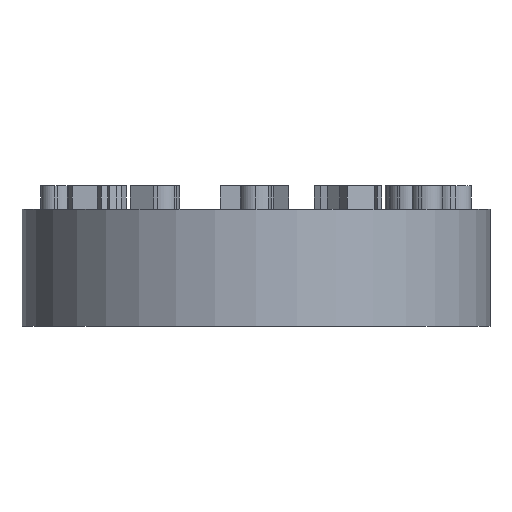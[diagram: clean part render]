
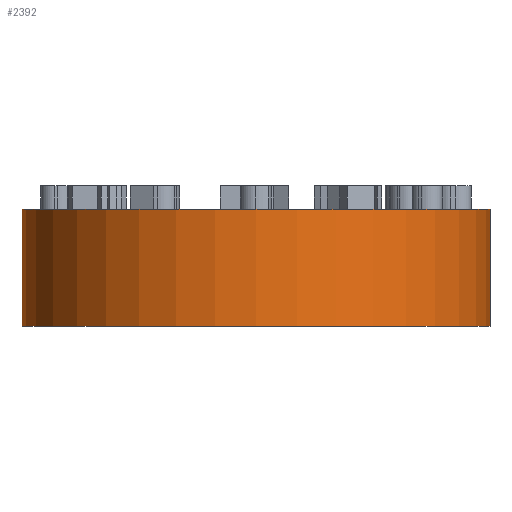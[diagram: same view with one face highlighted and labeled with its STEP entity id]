
A CAD part, front view. The second image highlights one B-rep face of the part: STEP entity #2392.
In plain terms, the highlighted cylindrical face has radius 10 mm (diameter 20 mm), a partial arc.
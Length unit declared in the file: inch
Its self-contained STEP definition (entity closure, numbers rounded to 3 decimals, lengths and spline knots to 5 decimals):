
#62 = DIRECTION ( 'NONE',  ( 0., 0., 1. ) ) ;
#99 = DIRECTION ( 'NONE',  ( 1., 0., 0. ) ) ;
#362 = DIRECTION ( 'NONE',  ( 0., 0., 1. ) ) ;
#584 = CARTESIAN_POINT ( 'NONE',  ( 0., 0., -0.19685 ) ) ;
#982 = DIRECTION ( 'NONE',  ( 1., 0., 0. ) ) ;
#1292 = CIRCLE ( 'NONE', #2174, 0.3937 ) ;
#1394 = ORIENTED_EDGE ( 'NONE', *, *, #2167, .T. ) ;
#1474 = EDGE_CURVE ( 'NONE', #3165, #2567, #4125, .T. ) ;
#1646 = CARTESIAN_POINT ( 'NONE',  ( 0., 0., 0.28386 ) ) ;
#2008 = DIRECTION ( 'NONE',  ( 0., 0., 1. ) ) ;
#2164 = CARTESIAN_POINT ( 'NONE',  ( 0.3937, 0., 0. ) ) ;
#2167 = EDGE_CURVE ( 'NONE', #3331, #5129, #4102, .T. ) ;
#2174 = AXIS2_PLACEMENT_3D ( 'NONE', #6137, #6722, #982 ) ;
#2179 = EDGE_CURVE ( 'NONE', #2567, #5129, #1292, .T. ) ;
#2392 = ADVANCED_FACE ( 'NONE', ( #3868 ), #4799, .T. ) ;
#2567 = VERTEX_POINT ( 'NONE', #4943 ) ;
#2682 = DIRECTION ( 'NONE',  ( 1., 0., 0. ) ) ;
#3165 = VERTEX_POINT ( 'NONE', #5205 ) ;
#3331 = VERTEX_POINT ( 'NONE', #3573 ) ;
#3418 = AXIS2_PLACEMENT_3D ( 'NONE', #584, #62, #2682 ) ;
#3480 = ORIENTED_EDGE ( 'NONE', *, *, #1474, .F. ) ;
#3573 = CARTESIAN_POINT ( 'NONE',  ( 0.3937, 0., -0.19685 ) ) ;
#3829 = DIRECTION ( 'NONE',  ( 0., 0., 1. ) ) ;
#3868 = FACE_OUTER_BOUND ( 'NONE', #3999, .T. ) ;
#3999 = EDGE_LOOP ( 'NONE', ( #3480, #5095, #1394, #5165 ) ) ;
#4102 = LINE ( 'NONE', #6657, #5499 ) ;
#4125 = LINE ( 'NONE', #6335, #5716 ) ;
#4799 = CYLINDRICAL_SURFACE ( 'NONE', #5730, 0.3937 ) ;
#4943 = CARTESIAN_POINT ( 'NONE',  ( -0.3937, 0., 0. ) ) ;
#5095 = ORIENTED_EDGE ( 'NONE', *, *, #6166, .T. ) ;
#5129 = VERTEX_POINT ( 'NONE', #2164 ) ;
#5165 = ORIENTED_EDGE ( 'NONE', *, *, #2179, .F. ) ;
#5205 = CARTESIAN_POINT ( 'NONE',  ( -0.3937, 0., -0.19685 ) ) ;
#5499 = VECTOR ( 'NONE', #362, 39.37008 ) ;
#5716 = VECTOR ( 'NONE', #2008, 39.37008 ) ;
#5730 = AXIS2_PLACEMENT_3D ( 'NONE', #1646, #3829, #99 ) ;
#6137 = CARTESIAN_POINT ( 'NONE',  ( 0., 0., 0. ) ) ;
#6166 = EDGE_CURVE ( 'NONE', #3165, #3331, #6403, .T. ) ;
#6335 = CARTESIAN_POINT ( 'NONE',  ( -0.3937, 0., 0.28386 ) ) ;
#6403 = CIRCLE ( 'NONE', #3418, 0.3937 ) ;
#6657 = CARTESIAN_POINT ( 'NONE',  ( 0.3937, 0., 0.28386 ) ) ;
#6722 = DIRECTION ( 'NONE',  ( 0., 0., 1. ) ) ;
